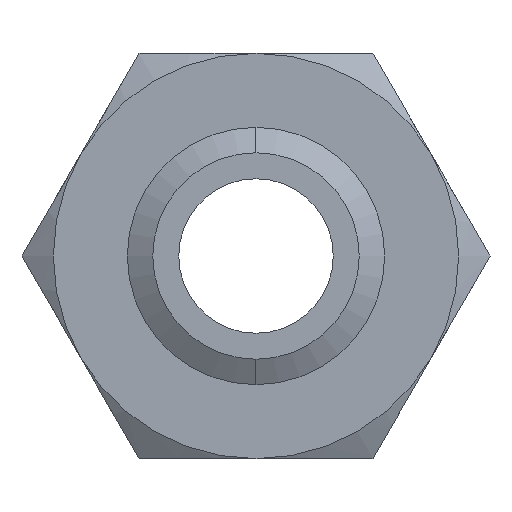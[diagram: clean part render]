
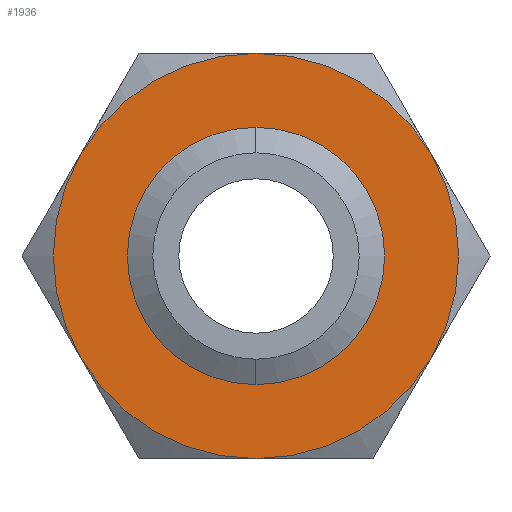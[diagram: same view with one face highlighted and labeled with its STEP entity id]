
A CAD part, front view. The second image highlights one B-rep face of the part: STEP entity #1936.
In plain terms, the highlighted planar face has unit normal (0, -1, 0).
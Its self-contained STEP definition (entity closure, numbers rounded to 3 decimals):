
#897 = CARTESIAN_POINT ( 'NONE',  ( 0., 0., 12.731 ) ) ;
#898 = CARTESIAN_POINT ( 'NONE',  ( 0., 0., -12.731 ) ) ;
#903 = DIRECTION ( 'NONE',  ( 0., 0., -1. ) ) ;
#904 = DIRECTION ( 'NONE',  ( 0., -1., 0. ) ) ;
#905 = CARTESIAN_POINT ( 'NONE',  ( 0., 0., 0. ) ) ;
#906 = AXIS2_PLACEMENT_3D ( 'NONE', #905, #904, #903 ) ;
#912 = CIRCLE ( 'NONE', #906, 12.731 ) ;
#1195 = DIRECTION ( 'NONE',  ( 0., 0., 1. ) ) ;
#1196 = DIRECTION ( 'NONE',  ( 0., 1., 0. ) ) ;
#1197 = CARTESIAN_POINT ( 'NONE',  ( 14.434, 0., -25. ) ) ;
#1198 = CARTESIAN_POINT ( 'NONE',  ( 0., 0., 25. ) ) ;
#1199 = AXIS2_PLACEMENT_3D ( 'NONE', #1197, #1196, #1195 ) ;
#1200 = PLANE ( 'NONE',  #1199 ) ;
#1201 = FACE_BOUND ( 'NONE', #2013, .T. ) ;
#1202 = FACE_OUTER_BOUND ( 'NONE', #1944, .T. ) ;
#1203 = CARTESIAN_POINT ( 'NONE',  ( -21.651, 0., -12.5 ) ) ;
#1232 = CARTESIAN_POINT ( 'NONE',  ( 0., 0., -25. ) ) ;
#1243 = CARTESIAN_POINT ( 'NONE',  ( -21.651, 0., 12.5 ) ) ;
#1244 = DIRECTION ( 'NONE',  ( 0., 0., 1. ) ) ;
#1245 = DIRECTION ( 'NONE',  ( 0., 1., 0. ) ) ;
#1246 = CARTESIAN_POINT ( 'NONE',  ( 0., 0., 0. ) ) ;
#1247 = AXIS2_PLACEMENT_3D ( 'NONE', #1246, #1245, #1244 ) ;
#1248 = CIRCLE ( 'NONE', #1247, 25. ) ;
#1249 = DIRECTION ( 'NONE',  ( 0., 0., 1. ) ) ;
#1250 = DIRECTION ( 'NONE',  ( 0., 1., 0. ) ) ;
#1251 = CARTESIAN_POINT ( 'NONE',  ( 0., 0., 0. ) ) ;
#1252 = AXIS2_PLACEMENT_3D ( 'NONE', #1251, #1250, #1249 ) ;
#1253 = CIRCLE ( 'NONE', #1252, 25. ) ;
#1254 = DIRECTION ( 'NONE',  ( 0., 0., 1. ) ) ;
#1255 = DIRECTION ( 'NONE',  ( 0., 1., 0. ) ) ;
#1256 = CARTESIAN_POINT ( 'NONE',  ( 0., 0., 0. ) ) ;
#1257 = AXIS2_PLACEMENT_3D ( 'NONE', #1256, #1255, #1254 ) ;
#1258 = CIRCLE ( 'NONE', #1257, 25. ) ;
#1259 = CARTESIAN_POINT ( 'NONE',  ( 21.651, 0., 12.5 ) ) ;
#1282 = DIRECTION ( 'NONE',  ( 0., 0., 1. ) ) ;
#1283 = DIRECTION ( 'NONE',  ( 0., 1., 0. ) ) ;
#1284 = CARTESIAN_POINT ( 'NONE',  ( 0., 0., 0. ) ) ;
#1285 = AXIS2_PLACEMENT_3D ( 'NONE', #1284, #1283, #1282 ) ;
#1286 = CIRCLE ( 'NONE', #1285, 25. ) ;
#1358 = DIRECTION ( 'NONE',  ( 0., 0., 1. ) ) ;
#1359 = DIRECTION ( 'NONE',  ( 0., 1., 0. ) ) ;
#1360 = CARTESIAN_POINT ( 'NONE',  ( 0., 0., 0. ) ) ;
#1361 = AXIS2_PLACEMENT_3D ( 'NONE', #1360, #1359, #1358 ) ;
#1362 = CIRCLE ( 'NONE', #1361, 25. ) ;
#1380 = DIRECTION ( 'NONE',  ( 0., 0., -1. ) ) ;
#1381 = DIRECTION ( 'NONE',  ( 0., -1., 0. ) ) ;
#1382 = CARTESIAN_POINT ( 'NONE',  ( 0., 0., 0. ) ) ;
#1383 = AXIS2_PLACEMENT_3D ( 'NONE', #1382, #1381, #1380 ) ;
#1384 = CIRCLE ( 'NONE', #1383, 12.731 ) ;
#1403 = DIRECTION ( 'NONE',  ( 0., 0., 1. ) ) ;
#1404 = DIRECTION ( 'NONE',  ( 0., 1., 0. ) ) ;
#1405 = CARTESIAN_POINT ( 'NONE',  ( 0., 0., 0. ) ) ;
#1406 = AXIS2_PLACEMENT_3D ( 'NONE', #1405, #1404, #1403 ) ;
#1407 = CIRCLE ( 'NONE', #1406, 25. ) ;
#1408 = CARTESIAN_POINT ( 'NONE',  ( 21.651, 0., -12.5 ) ) ;
#1650 = ORIENTED_EDGE ( 'NONE', *, *, #2014, .F. ) ;
#1764 = EDGE_CURVE ( 'NONE', #1768, #1769, #912, .T. ) ;
#1768 = VERTEX_POINT ( 'NONE', #898 ) ;
#1769 = VERTEX_POINT ( 'NONE', #897 ) ;
#1903 = ORIENTED_EDGE ( 'NONE', *, *, #1958, .F. ) ;
#1934 = VERTEX_POINT ( 'NONE', #1203 ) ;
#1936 = ADVANCED_FACE ( 'NONE', ( #1202, #1201 ), #1200, .F. ) ;
#1937 = VERTEX_POINT ( 'NONE', #1198 ) ;
#1938 = ORIENTED_EDGE ( 'NONE', *, *, #1940, .F. ) ;
#1939 = VERTEX_POINT ( 'NONE', #1259 ) ;
#1940 = EDGE_CURVE ( 'NONE', #1947, #1937, #1258, .T. ) ;
#1942 = EDGE_CURVE ( 'NONE', #1937, #1939, #1253, .T. ) ;
#1943 = EDGE_CURVE ( 'NONE', #1934, #1947, #1248, .T. ) ;
#1944 = EDGE_LOOP ( 'NONE', ( #1946, #1938, #1948, #1903, #1650, #2021 ) ) ;
#1946 = ORIENTED_EDGE ( 'NONE', *, *, #1942, .F. ) ;
#1947 = VERTEX_POINT ( 'NONE', #1243 ) ;
#1948 = ORIENTED_EDGE ( 'NONE', *, *, #1943, .F. ) ;
#1955 = VERTEX_POINT ( 'NONE', #1232 ) ;
#1958 = EDGE_CURVE ( 'NONE', #1955, #1934, #1286, .T. ) ;
#2013 = EDGE_LOOP ( 'NONE', ( #2023, #2025 ) ) ;
#2014 = EDGE_CURVE ( 'NONE', #2020, #1955, #1362, .T. ) ;
#2020 = VERTEX_POINT ( 'NONE', #1408 ) ;
#2021 = ORIENTED_EDGE ( 'NONE', *, *, #2022, .F. ) ;
#2022 = EDGE_CURVE ( 'NONE', #1939, #2020, #1407, .T. ) ;
#2023 = ORIENTED_EDGE ( 'NONE', *, *, #1764, .F. ) ;
#2025 = ORIENTED_EDGE ( 'NONE', *, *, #2030, .F. ) ;
#2030 = EDGE_CURVE ( 'NONE', #1769, #1768, #1384, .T. ) ;
